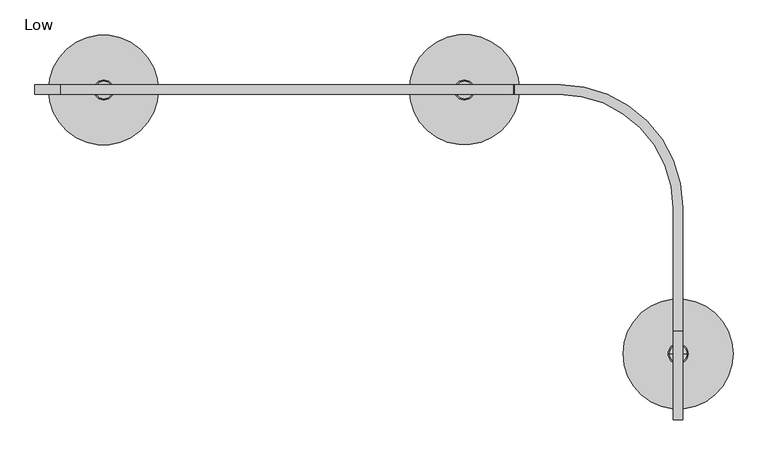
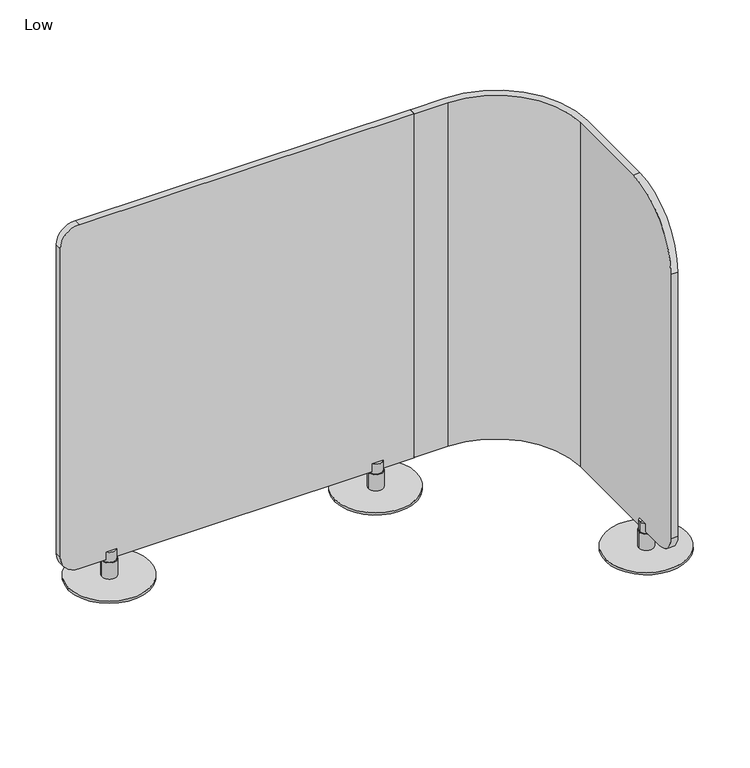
"""IFC4 building model written with IfcOpenShell, lengths in millimetres: furniture geometry, Coalesse_AM_SpaceDivision_Screen_Ensemble_J : Low."""

from ifc_helpers import new_model, si_unit, point, frame, frame_2d, origin, origin_with_axes, place, context, project, spatial, polyline, circle_curve, trimmed, segment, composite_curve, outline, extrude, source, transform, mapped, element, save
from ifc_brep_helpers import plane_surface, cylinder_surface, revolved_surface, advanced_brep


def low_30ccc711(model_context):
    return source(origin(), model_context, "Body", "SolidModel", [
        advanced_brep(
        [(1070.6348132, -12.7, 7.8732992), (1121.4348132, -12.7, 7.8732992), (1096.0348132, -12.7, 7.8732992), (1070.6348132, -12.7, 67.1258584), (1121.4348132, -12.7, 67.1258584), (1073.8888853, -12.7, 67.1258584), (1118.1807411, -12.7, 67.1258584), (1073.8888853, -12.7, 102.873817), (1118.1807411, -12.7, 102.873817), (1096.0348132, -12.7, 102.873817)],
        [
            (0, 1, circle_curve(frame((1096.0348132, -12.7, 7.8732992), z_axis=(0.0, 0.0, -1.0), x_axis=(1.0, 0.0, 0.0)), 25.4)),
            (1, 2),
            (2, 0),
            (1, 0, circle_curve(frame((1096.0348132, -12.7, 7.8732992), z_axis=(0.0, 0.0, -1.0), x_axis=(1.0, 0.0, 0.0)), 25.4)),
            (3, 4, circle_curve(frame((1096.0348132, -12.7, 67.1258584), z_axis=(0.0, 0.0, -1.0), x_axis=(1.0, 0.0, 0.0)), 25.4)),
            (4, 1),
            (0, 3),
            (4, 3, circle_curve(frame((1096.0348132, -12.7, 67.1258584), z_axis=(0.0, 0.0, -1.0), x_axis=(1.0, 0.0, 0.0)), 25.4)),
            (5, 6, circle_curve(frame((1096.0348132, -12.7, 67.1258584), z_axis=(0.0, 0.0, -1.0), x_axis=(1.0, 0.0, 0.0)), 22.1459279)),
            (6, 4),
            (3, 5),
            (6, 5, circle_curve(frame((1096.0348132, -12.7, 67.1258584), z_axis=(0.0, 0.0, -1.0), x_axis=(1.0, 0.0, 0.0)), 22.1459279)),
            (7, 8, circle_curve(frame((1096.0348132, -12.7, 102.873817), z_axis=(0.0, 0.0, -1.0), x_axis=(1.0, 0.0, 0.0)), 22.1459279)),
            (8, 6),
            (5, 7),
            (8, 7, circle_curve(frame((1096.0348132, -12.7, 102.873817), z_axis=(0.0, 0.0, -1.0), x_axis=(1.0, 0.0, 0.0)), 22.1459279)),
            (9, 8),
            (7, 9),
        ],
        [
            plane_surface(frame((1096.0348132, -12.7, 7.8732992), z_axis=(0.0, 0.0, -1.0), x_axis=(1.0, 0.0, 0.0))),
            cylinder_surface(frame((1096.0348132, -12.7, 102.873817), z_axis=(0.0, 0.0, 1.0), x_axis=(1.0, 0.0, 0.0)), 25.4),
            plane_surface(frame((1096.0348132, -12.7, 67.1258584), z_axis=(0.0, 0.0, 1.0), x_axis=(1.0, 0.0, 0.0))),
            cylinder_surface(frame((1096.0348132, -12.7, 102.873817), z_axis=(0.0, 0.0, 1.0), x_axis=(1.0, 0.0, 0.0)), 22.1459279),
            plane_surface(frame((1096.0348132, -12.7, 102.873817), z_axis=(0.0, 0.0, 1.0), x_axis=(1.0, 0.0, 0.0))),
        ],
        [
            (0, [[1, 2, 3]]),
            (0, [[4, -3, -2]]),
            (1, [[5, 6, -1, 7]]),
            (1, [[8, -7, -4, -6]]),
            (2, [[9, 10, -5, 11]]),
            (2, [[12, -11, -8, -10]]),
            (3, [[13, 14, -9, 15]]),
            (3, [[16, -15, -12, -14]]),
            (4, [[17, -13, 18]]),
            (4, [[-18, -16, -17]]),
        ],
    ),
        advanced_brep(
        [(1653.2794195, -628.1115594, 1330.198), (1653.2794195, -853.9734079, 1104.3361515), (1653.2794195, -853.9734079, 139.3436268), (1653.2794195, -789.1395851, 74.509804), (1653.2794195, -311.8992003, 74.5093328), (1653.2794195, -311.8992003, 1330.198), (1629.3018689, -789.1395851, 74.509804), (1629.3018689, -853.9734079, 139.3436268), (1629.3018689, -853.9734079, 1104.3361515), (1629.3018689, -628.1115594, 1330.198), (1629.3018689, -314.6621864, 1330.198), (1629.3018689, -314.6621864, 74.5093328), (1338.6115194, -23.9718373, 74.509804), (1224.5282013, -23.9774863, 74.509804), (1224.5282013, 0.0, 74.509804), (1341.4047188, 0.0, 74.509804), (1341.4047188, 0.0, 1330.198), (1224.5474217, 0.0, 1330.198), (1224.5474217, -23.9774863, 1330.198), (1338.6115194, -23.9718373, 1330.198), (1223.313448, 0.0, 75.7241996), (1223.313448, 0.0, 1328.9640263), (1223.313448, -23.9774863, 1328.9640263), (1223.313448, -23.9774863, 75.7241996)],
        [
            (0, 1, circle_curve(frame((1653.2794195, -628.1115594, 1104.3361515), z_axis=(1.0, 0.0, 0.0), x_axis=(0.0, 1.0, 0.0)), 225.8618485)),
            (1, 2),
            (2, 3, circle_curve(frame((1653.2794195, -789.1395851, 139.3436268), z_axis=(1.0, 0.0, 0.0), x_axis=(0.0, 1.0, 0.0)), 64.8338228)),
            (3, 4),
            (4, 5),
            (5, 0),
            (6, 7, circle_curve(frame((1629.3018689, -789.1395851, 139.3436268), z_axis=(-1.0, 0.0, 0.0), x_axis=(0.0, 1.0, 0.0)), 64.8338228)),
            (7, 8),
            (8, 9, circle_curve(frame((1629.3018689, -628.1115594, 1104.3361515), z_axis=(-1.0, 0.0, 0.0), x_axis=(0.0, 1.0, 0.0)), 225.8618485)),
            (9, 10),
            (10, 11),
            (11, 6),
            (0, 9),
            (8, 1),
            (7, 2),
            (6, 3),
            (11, 12, circle_curve(frame((1338.6115194, -314.6621864, 74.509804), z_axis=(0.0, 0.0, 1.0), x_axis=(1.0, 0.0, 0.0)), 290.690349)),
            (12, 13),
            (13, 14),
            (14, 15),
            (15, 4, circle_curve(frame((1341.4047188, -311.8992003, 74.509804), z_axis=(0.0, 0.0, -1.0), x_axis=(1.0, 0.0, 0.0)), 311.8992003)),
            (5, 16, circle_curve(frame((1341.4047188, -311.8992003, 1330.198), z_axis=(0.0, 0.0, 1.0), x_axis=(1.0, 0.0, 0.0)), 311.8992003)),
            (16, 17),
            (17, 18),
            (18, 19),
            (19, 10, circle_curve(frame((1338.6115194, -314.6621864, 1330.198), z_axis=(0.0, 0.0, -1.0), x_axis=(1.0, 0.0, 0.0)), 290.690349)),
            (15, 16),
            (14, 20, circle_curve(frame((1224.5282013, 0.0, 75.7241996), z_axis=(0.0, 1.0, 0.0), x_axis=(1.0, 0.0, 0.0)), 1.2147532)),
            (20, 21),
            (21, 17, circle_curve(frame((1224.5474217, 0.0, 1328.9640263), z_axis=(0.0, 1.0, 0.0), x_axis=(1.0, 0.0, 0.0)), 1.2339737)),
            (22, 18, circle_curve(frame((1224.5474217, -23.9774863, 1328.9640263), z_axis=(0.0, 1.0, 0.0), x_axis=(1.0, 0.0, 0.0)), 1.2339737)),
            (21, 22),
            (23, 22),
            (20, 23),
            (13, 23, circle_curve(frame((1224.5282013, -23.9774863, 75.7241996), z_axis=(0.0, 1.0, 0.0), x_axis=(1.0, 0.0, 0.0)), 1.2147532)),
            (12, 19),
        ],
        [
            plane_surface(frame((1653.2794195, -402.2497109, 1104.3361515), z_axis=(1.0, 0.0, 0.0), x_axis=(0.0, 0.0, 1.0))),
            plane_surface(frame((1629.3018689, -402.2497109, 1104.3361515), z_axis=(-1.0, 0.0, 0.0), x_axis=(0.0, 0.0, -1.0))),
            cylinder_surface(frame((1629.3018689, -628.1115594, 1104.3361515), z_axis=(1.0, 0.0, 0.0), x_axis=(0.0, 1.0, 0.0)), 225.8618485),
            plane_surface(frame((1653.2794195, -853.9734079, 1104.3361515), z_axis=(0.0, -1.0, 0.0), x_axis=(-1.0, 0.0, 0.0))),
            cylinder_surface(frame((1629.3018689, -789.1395851, 139.3436268), z_axis=(1.0, 0.0, 0.0), x_axis=(0.0, 1.0, 0.0)), 64.8338228),
            plane_surface(frame((1653.2794195, -789.1395851, 74.509804), z_axis=(0.0, 0.0, -1.0), x_axis=(-1.0, 0.0, 0.0))),
            plane_surface(frame((1653.2794195, -317.5353355, 1330.198), z_axis=(0.0, 0.0, 1.0), x_axis=(-1.0, 0.0, 0.0))),
            cylinder_surface(frame((1341.4047188, -311.8992003, 74.5093328), z_axis=(0.0, 0.0, 1.0), x_axis=(1.0, 0.0, 0.0)), 311.8992003),
            plane_surface(frame((1341.4047188, 0.0, 1330.198), z_axis=(0.0, 1.0, 0.0), x_axis=(0.0, 0.0, -1.0))),
            cylinder_surface(frame((1224.5474217, 0.0, 1328.9640263), z_axis=(0.0, -1.0, 0.0), x_axis=(1.0, 0.0, 0.0)), 1.2339737),
            plane_surface(frame((1223.313448, -23.9774863, 1328.9640263), z_axis=(-1.0, 0.0, 0.0), x_axis=(0.0, 1.0, 0.0))),
            cylinder_surface(frame((1224.5282013, 0.0, 75.7241996), z_axis=(0.0, -1.0, 0.0), x_axis=(1.0, 0.0, 0.0)), 1.2147532),
            plane_surface(frame((1337.0743869, -23.9718373, 1330.198), z_axis=(0.0, -1.0, 0.0), x_axis=(0.0, 0.0, -1.0))),
            revolved_surface(polyline([(1629.3018683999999, -314.6621864, 74.5093328), (1629.3018683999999, -314.6621864, 1330.198)]), (1338.6115194, -314.6621864, 74.5093328), (0.0, 0.0, -1.0)),
        ],
        [
            (0, [[1, 2, 3, 4, 5, 6]]),
            (1, [[7, 8, 9, 10, 11, 12]]),
            (2, [[-1, 13, -9, 14]]),
            (3, [[-2, -14, -8, 15]]),
            (4, [[-3, -15, -7, 16]]),
            (5, [[-16, -12, 17, 18, 19, 20, 21, -4]]),
            (6, [[-13, -6, 22, 23, 24, 25, 26, -10]]),
            (7, [[-22, -5, -21, 27]]),
            (8, [[-23, -27, -20, 28, 29, 30]]),
            (9, [[31, -24, -30, 32]]),
            (10, [[33, -32, -29, 34]]),
            (11, [[35, -34, -28, -19]]),
            (12, [[-25, -31, -33, -35, -18, 36]]),
            (13, [[-26, -36, -17, -11]]),
        ],
    ),
        extrude(outline(composite_curve([segment(trimmed(circle_curve(frame_2d((1265.2343364, 64.9636636)), 64.9636636), [point((1330.198, 64.9636636))], [point((1265.2343364, 0.0))], False, "CARTESIAN"), True, "CONTINUOUS"), segment(polyline([(1265.2343364, 0.0), (138.0093328, 0.0)]), True, "CONTINUOUS"), segment(trimmed(circle_curve(frame_2d((138.0093328, 63.5)), 63.5), [point((138.0093328, 0.0))], [point((74.5093328, 63.5))], False, "CARTESIAN"), True, "CONTINUOUS"), segment(polyline([(74.5093328, 63.5), (74.5093328, 1222.03476)]), True, "CONTINUOUS"), segment(trimmed(circle_curve(frame_2d((75.7880209, 1222.03476)), 1.278688), [point((74.5093328, 1222.03476))], [point((75.7880209, 1223.313448))], False, "CARTESIAN"), True, "CONTINUOUS"), segment(polyline([(75.7880209, 1223.313448), (1329.0160977, 1223.313448)]), True, "CONTINUOUS"), segment(trimmed(circle_curve(frame_2d((1329.0160977, 1222.1315458)), 1.1819023), [point((1329.0160977, 1223.313448))], [point((1330.198, 1222.1315458))], False, "CARTESIAN"), True, "CONTINUOUS"), segment(polyline([(1330.198, 1222.1315458), (1330.198, 64.9636636)]), True, "CONTINUOUS")], self_intersect=False)), frame((0.0, -23.9774863, 0.0), z_axis=(0.0, 1.0, 0.0), x_axis=(0.0, 0.0, 1.0)), (0.0, 0.0, 1.0), 23.9774863),
        advanced_brep(
        [(1616.006583, -685.8161337, 7.8732992), (1666.806583, -685.8161337, 7.8732992), (1641.406583, -685.8161337, 7.8732992), (1616.006583, -685.8161337, 67.1258584), (1666.806583, -685.8161337, 67.1258584), (1619.2606551, -685.8161337, 67.1258584), (1663.5525109, -685.8161337, 67.1258584), (1619.2606551, -685.8161337, 102.873817), (1663.5525109, -685.8161337, 102.873817), (1641.406583, -685.8161337, 102.873817)],
        [
            (0, 1, circle_curve(frame((1641.406583, -685.8161337, 7.8732992), z_axis=(0.0, 0.0, -1.0), x_axis=(1.0, 0.0, 0.0)), 25.4)),
            (1, 2),
            (2, 0),
            (1, 0, circle_curve(frame((1641.406583, -685.8161337, 7.8732992), z_axis=(0.0, 0.0, -1.0), x_axis=(1.0, 0.0, 0.0)), 25.4)),
            (3, 4, circle_curve(frame((1641.406583, -685.8161337, 67.1258584), z_axis=(0.0, 0.0, -1.0), x_axis=(1.0, 0.0, 0.0)), 25.4)),
            (4, 1),
            (0, 3),
            (4, 3, circle_curve(frame((1641.406583, -685.8161337, 67.1258584), z_axis=(0.0, 0.0, -1.0), x_axis=(1.0, 0.0, 0.0)), 25.4)),
            (5, 6, circle_curve(frame((1641.406583, -685.8161337, 67.1258584), z_axis=(0.0, 0.0, -1.0), x_axis=(1.0, 0.0, 0.0)), 22.1459279)),
            (6, 4),
            (3, 5),
            (6, 5, circle_curve(frame((1641.406583, -685.8161337, 67.1258584), z_axis=(0.0, 0.0, -1.0), x_axis=(1.0, 0.0, 0.0)), 22.1459279)),
            (7, 8, circle_curve(frame((1641.406583, -685.8161337, 102.873817), z_axis=(0.0, 0.0, -1.0), x_axis=(1.0, 0.0, 0.0)), 22.1459279)),
            (8, 6),
            (5, 7),
            (8, 7, circle_curve(frame((1641.406583, -685.8161337, 102.873817), z_axis=(0.0, 0.0, -1.0), x_axis=(1.0, 0.0, 0.0)), 22.1459279)),
            (9, 8),
            (7, 9),
        ],
        [
            plane_surface(frame((1641.406583, -685.8161337, 7.8732992), z_axis=(0.0, 0.0, -1.0), x_axis=(1.0, 0.0, 0.0))),
            cylinder_surface(frame((1641.406583, -685.8161337, 102.873817), z_axis=(0.0, 0.0, 1.0), x_axis=(1.0, 0.0, 0.0)), 25.4),
            plane_surface(frame((1641.406583, -685.8161337, 67.1258584), z_axis=(0.0, 0.0, 1.0), x_axis=(1.0, 0.0, 0.0))),
            cylinder_surface(frame((1641.406583, -685.8161337, 102.873817), z_axis=(0.0, 0.0, 1.0), x_axis=(1.0, 0.0, 0.0)), 22.1459279),
            plane_surface(frame((1641.406583, -685.8161337, 102.873817), z_axis=(0.0, 0.0, 1.0), x_axis=(1.0, 0.0, 0.0))),
        ],
        [
            (0, [[1, 2, 3]]),
            (0, [[4, -3, -2]]),
            (1, [[5, 6, -1, 7]]),
            (1, [[8, -7, -4, -6]]),
            (2, [[9, 10, -5, 11]]),
            (2, [[12, -11, -8, -10]]),
            (3, [[13, 14, -9, 15]]),
            (3, [[16, -15, -12, -14]]),
            (4, [[17, -13, 18]]),
            (4, [[-18, -16, -17]]),
        ],
    ),
        advanced_brep(
        [(150.4803497, -12.7, 7.8732992), (201.2803497, -12.7, 7.8732992), (175.8803497, -12.7, 7.8732992), (150.4803497, -12.7, 67.1258584), (201.2803497, -12.7, 67.1258584), (153.7344218, -12.7, 67.1258584), (198.0262776, -12.7, 67.1258584), (153.7344218, -12.7, 102.873817), (198.0262776, -12.7, 102.873817), (175.8803497, -12.7, 102.873817)],
        [
            (0, 1, circle_curve(frame((175.8803497, -12.7, 7.8732992), z_axis=(0.0, 0.0, -1.0), x_axis=(1.0, 0.0, 0.0)), 25.4)),
            (1, 2),
            (2, 0),
            (1, 0, circle_curve(frame((175.8803497, -12.7, 7.8732992), z_axis=(0.0, 0.0, -1.0), x_axis=(1.0, 0.0, 0.0)), 25.4)),
            (3, 4, circle_curve(frame((175.8803497, -12.7, 67.1258584), z_axis=(0.0, 0.0, -1.0), x_axis=(1.0, 0.0, 0.0)), 25.4)),
            (4, 1),
            (0, 3),
            (4, 3, circle_curve(frame((175.8803497, -12.7, 67.1258584), z_axis=(0.0, 0.0, -1.0), x_axis=(1.0, 0.0, 0.0)), 25.4)),
            (5, 6, circle_curve(frame((175.8803497, -12.7, 67.1258584), z_axis=(0.0, 0.0, -1.0), x_axis=(1.0, 0.0, 0.0)), 22.1459279)),
            (6, 4),
            (3, 5),
            (6, 5, circle_curve(frame((175.8803497, -12.7, 67.1258584), z_axis=(0.0, 0.0, -1.0), x_axis=(1.0, 0.0, 0.0)), 22.1459279)),
            (7, 8, circle_curve(frame((175.8803497, -12.7, 102.873817), z_axis=(0.0, 0.0, -1.0), x_axis=(1.0, 0.0, 0.0)), 22.1459279)),
            (8, 6),
            (5, 7),
            (8, 7, circle_curve(frame((175.8803497, -12.7, 102.873817), z_axis=(0.0, 0.0, -1.0), x_axis=(1.0, 0.0, 0.0)), 22.1459279)),
            (9, 8),
            (7, 9),
        ],
        [
            plane_surface(frame((175.8803497, -12.7, 7.8732992), z_axis=(0.0, 0.0, -1.0), x_axis=(1.0, 0.0, 0.0))),
            cylinder_surface(frame((175.8803497, -12.7, 102.873817), z_axis=(0.0, 0.0, 1.0), x_axis=(1.0, 0.0, 0.0)), 25.4),
            plane_surface(frame((175.8803497, -12.7, 67.1258584), z_axis=(0.0, 0.0, 1.0), x_axis=(1.0, 0.0, 0.0))),
            cylinder_surface(frame((175.8803497, -12.7, 102.873817), z_axis=(0.0, 0.0, 1.0), x_axis=(1.0, 0.0, 0.0)), 22.1459279),
            plane_surface(frame((175.8803497, -12.7, 102.873817), z_axis=(0.0, 0.0, 1.0), x_axis=(1.0, 0.0, 0.0))),
        ],
        [
            (0, [[1, 2, 3]]),
            (0, [[4, -3, -2]]),
            (1, [[5, 6, -1, 7]]),
            (1, [[8, -7, -4, -6]]),
            (2, [[9, 10, -5, 11]]),
            (2, [[12, -11, -8, -10]]),
            (3, [[13, 14, -9, 15]]),
            (3, [[16, -15, -12, -14]]),
            (4, [[17, -13, 18]]),
            (4, [[-18, -16, -17]]),
        ],
    ),
        extrude(outline(composite_curve([segment(trimmed(circle_curve(frame_2d((174.96528, -12.7801048)), 140.0479005), [point((34.9173795, -12.7801048))], [point((315.0131805, -12.7801048))], False, "CARTESIAN"), True, "CONTINUOUS"), segment(trimmed(circle_curve(frame_2d((174.96528, -12.7801048)), 140.0479005), [point((315.0131805, -12.7801048))], [point((34.9173795, -12.7801048))], False, "CARTESIAN"), True, "CONTINUOUS")], self_intersect=False)), origin_with_axes(), (0.0, 0.0, 1.0), 7.8732992),
        extrude(outline(composite_curve([segment(trimmed(circle_curve(frame_2d((1641.2884683, -686.081839)), 140.3919114), [point((1500.8965568, -686.081839))], [point((1781.6803797, -686.081839))], False, "CARTESIAN"), True, "CONTINUOUS"), segment(trimmed(circle_curve(frame_2d((1641.2884683, -686.081839)), 140.3919114), [point((1781.6803797, -686.081839))], [point((1500.8965568, -686.081839))], False, "CARTESIAN"), True, "CONTINUOUS")], self_intersect=False)), origin_with_axes(), (0.0, 0.0, 1.0), 7.8732992),
        extrude(outline(composite_curve([segment(trimmed(circle_curve(frame_2d((1096.127587, -11.9908814)), 140.3919114), [point((955.7356756, -11.9908814))], [point((1236.5194984, -11.9908814))], False, "CARTESIAN"), True, "CONTINUOUS"), segment(trimmed(circle_curve(frame_2d((1096.127587, -11.9908814)), 140.3919114), [point((1236.5194984, -11.9908814))], [point((955.7356756, -11.9908814))], False, "CARTESIAN"), True, "CONTINUOUS")], self_intersect=False)), origin_with_axes(), (0.0, 0.0, 1.0), 7.8732992),
    ])


if __name__ == "__main__":
    model = new_model("IFC4")
    model_context = context("Model", 3, world=origin())
    ifc_project = project(units=[si_unit("LENGTHUNIT", "METRE", prefix="MILLI")], contexts=[model_context])
    site = spatial("IfcSite", under=ifc_project)
    building = spatial("IfcBuilding", under=site)
    placement = place(None, origin())
    low_shape = low_30ccc711(model_context)
    element("IfcFurniture", 1, ObjectType="Coalesse_AM_SpaceDivision_Screen_Ensemble_J : Low", at=placement, inside=building, context=model_context, shape_type="MappedRepresentation", body=[
        mapped(low_shape, transform((0.0, 0.0, 0.0), x_axis=(1.0, 0.0, 0.0), y_axis=(0.0, 1.0, 0.0), z_axis=(0.0, 0.0, 1.0))),
    ])
    save(model, "model.ifc")
